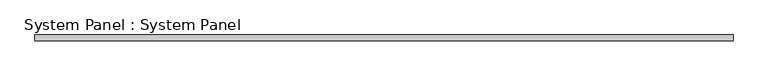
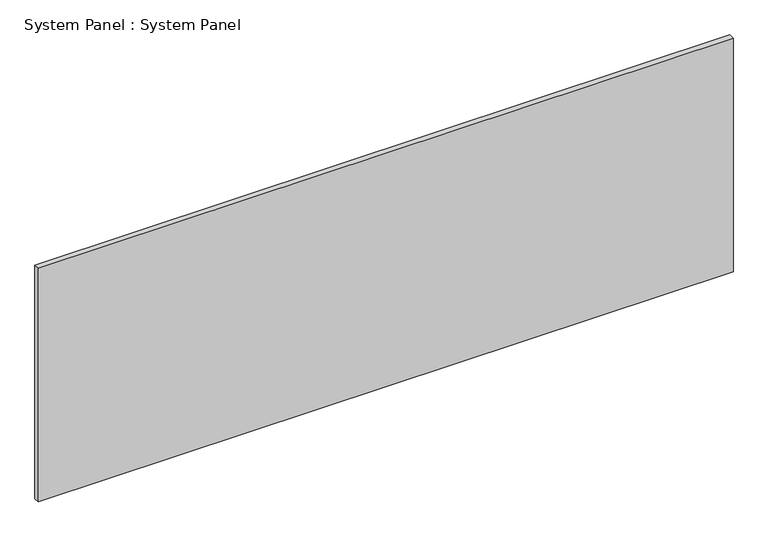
"""IFC4 building model written with IfcOpenShell, lengths in millimetres: plate geometry, System Panel : System Panel."""

from ifc_helpers import new_model, si_unit, origin, origin_with_axes, place, context, project, spatial, polyline, outline, extrude, source, transform, mapped, element, save


def system_panel_system_panel_6940bc57(model_context):
    return source(origin(), model_context, "Body", "SweptSolid", [
        extrude(outline(polyline([(1536.7, 19.05), (-1536.7, 19.05), (-1536.7, 44.45), (1536.7, 44.45), (1536.7, 19.05)])), origin_with_axes(), (0.0, 0.0, 1.0), 1092.2),
    ])


if __name__ == "__main__":
    model = new_model("IFC4")
    model_context = context("Model", 3, world=origin())
    ifc_project = project(units=[si_unit("LENGTHUNIT", "METRE", prefix="MILLI")], contexts=[model_context])
    site = spatial("IfcSite", under=ifc_project)
    building = spatial("IfcBuilding", under=site)
    placement = place(None, origin())
    system_panel_system_panel_shape = system_panel_system_panel_6940bc57(model_context)
    element("IfcPlate", 1, ObjectType="System Panel : System Panel", at=placement, inside=building, context=model_context, shape_type="MappedRepresentation", body=[
        mapped(system_panel_system_panel_shape, transform((0.0, 0.0, 0.0), x_axis=(1.0, 0.0, 0.0), y_axis=(0.0, 1.0, 0.0), z_axis=(0.0, 0.0, 1.0))),
    ])
    save(model, "model.ifc")
